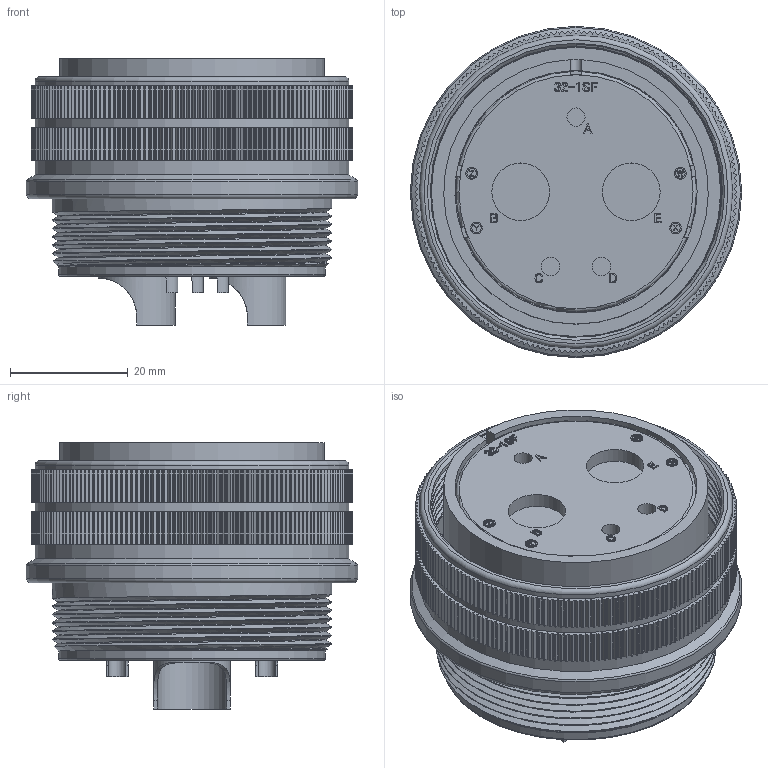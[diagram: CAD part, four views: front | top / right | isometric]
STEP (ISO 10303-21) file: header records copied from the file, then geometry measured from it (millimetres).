
FILE_DESCRIPTION (( 'STEP AP203' ), '1' );
FILE_NAME ('DMS3106A32-1S(D190).STEP', '2021-04-05T08:12:00', ( '' ), ( '' ), 'SwSTEP 2.0', 'SolidWorks 2018', '' );
FILE_SCHEMA (( 'CONFIG_CONTROL_DESIGN' ));
Products named in the file (1): DMS3106A32-1S(D190)
Bounding box: 56.28 x 56.28 x 45.25 mm (x, y, z)
Volume: 60761.3 mm3; surface area: 29611.3 mm2
Topology: 1 solids, 1 shells, 2810 faces, 8204 edges, 5468 vertices
Faces by surface type: cylinder 1523, plane 1066, bspline 211, torus 7, cone 3
Full cylindrical faces by diameter (mm): 1.6 x4, 2 x4, 2.85 x3, 3.1 x3, 3.79 x3, 3.9 x3, 9.78 x2, 11.79 x2, 13.03 x2, 38.1 x1, 41.15 x1, 42.95 x1, 45.3 x1, 47.5 x1, 48.34 x1, 49.15 x1, 49.35 x1, 50.02 x1, 53.24 x3, 56.28 x1
Entity records: 102339 total; most frequent: CARTESIAN_POINT 26692, ORIENTED_EDGE 16252, DIRECTION 15903, EDGE_CURVE 8126, AXIS2_PLACEMENT_3D 5641, VERTEX_POINT 5439, LINE 4621, VECTOR 4621
